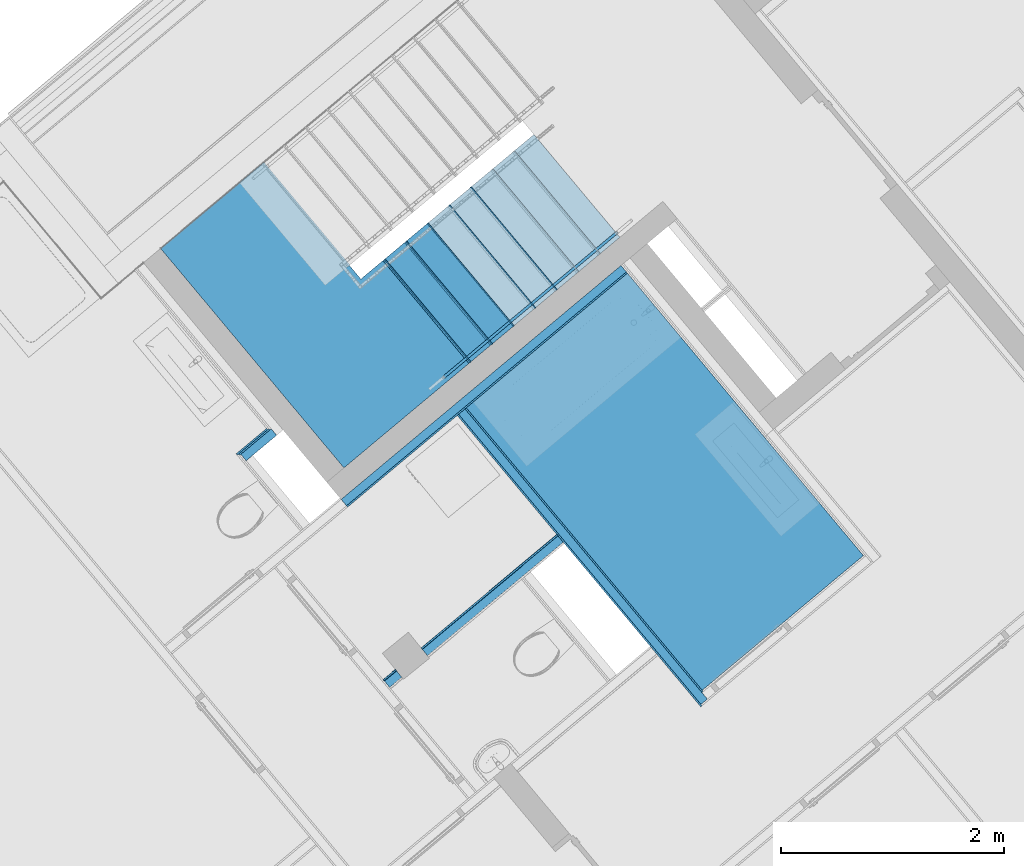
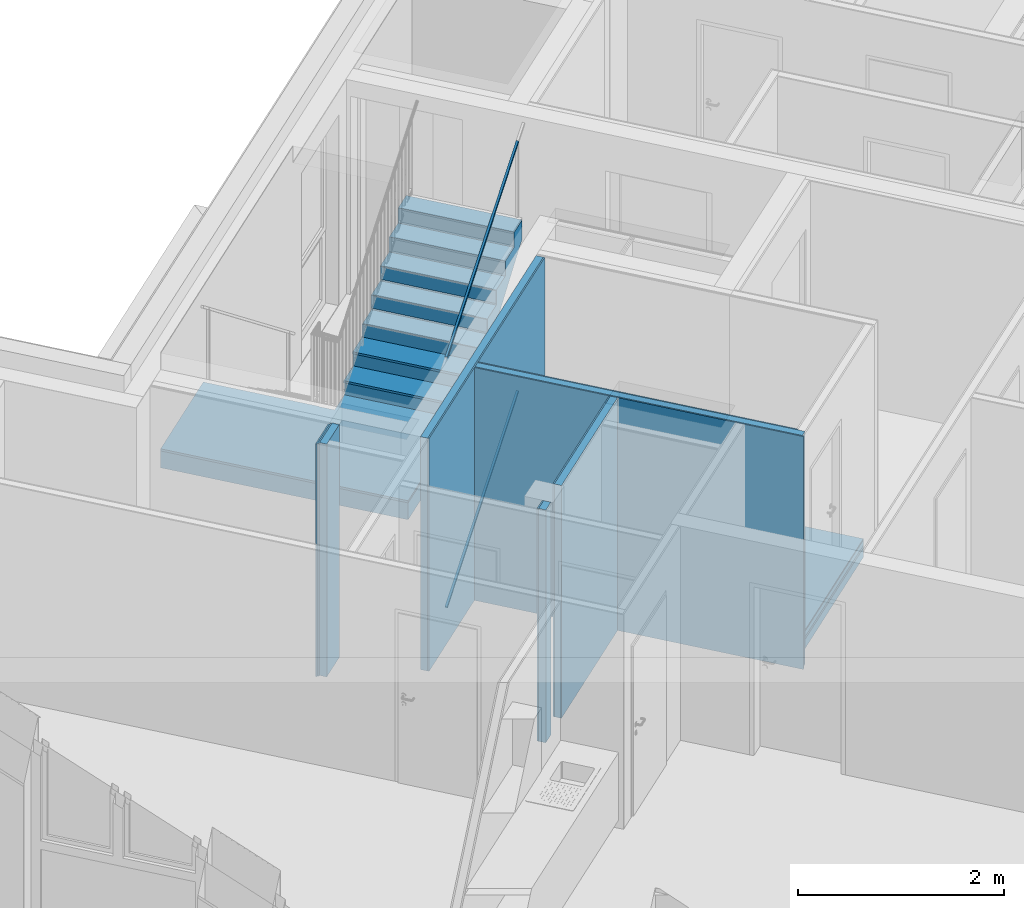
# One storey, part 27 of 53: 26 building element parts, 8 elements without a shape of their own.
"""IFC4 building model written with IfcOpenShell, lengths in metres."""

from ifc_helpers import new_model, entity, si_unit, converted_unit, derived_unit, direction, frame, origin_with_axes, place, context, subcontext, project, spatial, polygons, material, type_object, element, aggregate, save


model = new_model("IFC4")

# Units and contexts
model_context = context("Model", 3, precision=1e-05, world=origin_with_axes(), true_north=direction((0.0, 1.0)))
body_context = subcontext(model_context, "Body", "Model", "MODEL_VIEW")
ifc_project = project(units=[si_unit("LENGTHUNIT", "METRE"), si_unit("AREAUNIT", "SQUARE_METRE"), si_unit("VOLUMEUNIT", "CUBIC_METRE"), converted_unit("PLANEANGLEUNIT", "DEGREE", entity("IfcPlaneAngleMeasure", 0.0174532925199), si_unit("PLANEANGLEUNIT", "RADIAN"), dimensions=[0, 0, 0, 0, 0, 0, 0]), converted_unit("TIMEUNIT", "Year", entity("IfcTimeMeasure", 31556926.0), si_unit("TIMEUNIT", "SECOND"), dimensions=[0, 0, 1, 0, 0, 0, 0]), si_unit("MASSUNIT", "GRAM", prefix="KILO"), si_unit("THERMODYNAMICTEMPERATUREUNIT", "DEGREE_CELSIUS"), si_unit("LUMINOUSINTENSITYUNIT", "LUMEN"), si_unit("ENERGYUNIT", "JOULE", prefix="MEGA"), derived_unit("THERMALCONDUCTANCEUNIT", [(si_unit("POWERUNIT", "WATT"), 1), (si_unit("LENGTHUNIT", "METRE"), -1), (si_unit("THERMODYNAMICTEMPERATUREUNIT", "KELVIN"), -1)]), derived_unit("SPECIFICHEATCAPACITYUNIT", [(si_unit("ENERGYUNIT", "JOULE"), 1), (si_unit("MASSUNIT", "GRAM", prefix="KILO"), -1), (si_unit("THERMODYNAMICTEMPERATUREUNIT", "KELVIN"), -1)]), derived_unit("MASSDENSITYUNIT", [(si_unit("MASSUNIT", "GRAM", prefix="KILO"), 1), (si_unit("VOLUMEUNIT", "CUBIC_METRE"), -1)])], contexts=[model_context])

# Site, building, storey
site_placement = place(None, frame((-0.00153261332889, -0.00661245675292, 0.0), z_axis=(0.0, 0.0, 1.0), x_axis=(1.0, 0.0, 0.0)))
site = spatial("IfcSite", under=ifc_project, at=site_placement, Name="Gelände", CompositionType="ELEMENT")
building_placement = place(site_placement, origin_with_axes())
building = spatial("IfcBuilding", under=site, at=building_placement, Name="Gebäude", CompositionType="ELEMENT")
storey_placement = place(building_placement, frame((0.0, 0.0, 2.74), z_axis=(0.0, 0.0, 1.0), x_axis=(1.0, 0.0, 0.0)))
storey = spatial("IfcBuildingStorey", under=building, at=storey_placement, Name="OG1", CompositionType="ELEMENT", Elevation=2.74)

# Wall, building element parts
wall_type_1 = type_object("IfcWallType", Name="LB 10,5 cm doppelte Vorsatzschale Bad 105", PredefinedType="NOTDEFINED")
wall_1_placement = place(storey_placement, frame((-2.73492476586, 20.9066336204, 0.0), z_axis=(0.0, 0.0, 1.0), x_axis=(-0.767365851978, -0.64120952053, 0.0)))
wall_1 = element("IfcWall", 1, at=wall_1_placement, inside=storey, type_object=wall_type_1, Name="Wand-004", PredefinedType="NOTDEFINED")
ifc_material_1 = material(Name="Mineralwolle weich")
building_element_part_1_placement = place(wall_1_placement, origin_with_axes())
building_element_part_1 = element("IfcBuildingElementPart", 2, at=building_element_part_1_placement, material=ifc_material_1, Name="Mineralwolle weich", PredefinedType="NOTDEFINED", context=body_context, shape_type="Tessellation", body=[
    polygons([(0.430575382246, 0.0, 2.76), (0.075, 0.0, 2.76), (0.0750000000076, -0.075, 2.76), (0.430575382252, -0.075, 2.76), (0.430575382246, 0.0, 0.0), (0.075, 0.0, 0.0), (0.0750000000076, -0.075, 0.0), (0.430575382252, -0.075, 0.0)], [[[1, 2, 3, 4]], [[5, 6, 2, 1]], [[3, 2, 6, 7]], [[4, 3, 7, 8]], [[4, 8, 5, 1]], [[8, 7, 6, 5]]], closed=True),
])
ifc_material_2 = material(Name="Gipskarton")
building_element_part_2_placement = place(wall_1_placement, origin_with_axes())
building_element_part_2 = element("IfcBuildingElementPart", 3, at=building_element_part_2_placement, material=ifc_material_2, Name="Gipskarton", PredefinedType="NOTDEFINED", context=body_context, shape_type="Tessellation", body=[
    polygons([(0.445575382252, -0.075, 2.76), (0.0900000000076, -0.075, 2.76), (0.0900000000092, -0.09, 2.76), (0.445575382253, -0.09, 2.76), (0.445575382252, -0.075, 0.0), (0.0900000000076, -0.075, 0.0), (0.0900000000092, -0.09, 0.0), (0.445575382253, -0.09, 0.0)], [[[1, 2, 3, 4]], [[5, 6, 2, 1]], [[3, 2, 6, 7]], [[4, 3, 7, 8]], [[4, 8, 5, 1]], [[8, 7, 6, 5]]], closed=True),
])
building_element_part_3_placement = place(wall_1_placement, origin_with_axes())
building_element_part_3 = element("IfcBuildingElementPart", 4, at=building_element_part_3_placement, material=ifc_material_2, Name="Gipskarton", PredefinedType="NOTDEFINED", context=body_context, shape_type="Tessellation", body=[
    polygons([(0.460575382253, -0.09, 2.76), (0.105000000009, -0.09, 2.76), (0.105000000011, -0.105, 2.76), (0.460575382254, -0.105, 2.76), (0.460575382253, -0.09, 0.0), (0.105000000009, -0.09, 0.0), (0.105000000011, -0.105, 0.0), (0.460575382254, -0.105, 0.0)], [[[1, 2, 3, 4]], [[5, 6, 2, 1]], [[3, 2, 6, 7]], [[4, 3, 7, 8]], [[4, 8, 5, 1]], [[8, 7, 6, 5]]], closed=True),
])
aggregate(wall_1, [building_element_part_1, building_element_part_2, building_element_part_3])

wall_type_2 = type_object("IfcWallType", Name="IW LB 01 Leichtbautrennwand einfach 10,5 cm 105", PredefinedType="NOTDEFINED")
wall_2_placement = place(storey_placement, frame((-0.283908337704, 19.9697246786, 0.0), z_axis=(0.0, 0.0, 1.0), x_axis=(-0.76736585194, -0.641209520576, 0.0)))
wall_2 = element("IfcWall", 5, at=wall_2_placement, inside=storey, type_object=wall_type_2, Name="Wand-012", PredefinedType="NOTDEFINED")
building_element_part_4_placement = place(wall_2_placement, origin_with_axes())
building_element_part_4 = element("IfcBuildingElementPart", 6, at=building_element_part_4_placement, material=ifc_material_1, Name="Mineralwolle weich", PredefinedType="NOTDEFINED", context=body_context, shape_type="Tessellation", body=[
    polygons([(1.88453826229, 0.09, 0.0), (1.88453826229, 0.09, 2.76), (2.02595275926, 0.09, 2.76), (2.02595275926, 0.09, 0.0), (1.8834173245, 0.015, 2.76), (1.8834173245, 0.015, 0.0), (2.02595275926, 0.015, 2.76), (2.02595275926, 0.015, 0.0)], [[[1, 2, 3, 4]], [[5, 2, 1, 6]], [[2, 5, 7, 3]], [[8, 4, 3, 7]], [[6, 1, 4, 8]], [[5, 6, 8, 7]]], closed=True),
    polygons([(1.58338381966, 0.015, 2.76), (1.58450475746, 0.09, 2.76), (0.0, 0.09, 2.76), (0.0, 0.015, 2.76), (1.58450475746, 0.09, 0.0), (1.58338381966, 0.015, 0.0), (0.0, 0.09, 0.0), (0.0, 0.015, 0.0)], [[[1, 2, 3, 4]], [[5, 2, 1, 6]], [[2, 5, 7, 3]], [[3, 7, 8, 4]], [[6, 1, 4, 8]], [[5, 6, 8, 7]]], closed=True),
])
building_element_part_5_placement = place(wall_2_placement, origin_with_axes())
building_element_part_5 = element("IfcBuildingElementPart", 7, at=building_element_part_5_placement, material=ifc_material_2, Name="Gipskarton", PredefinedType="NOTDEFINED", context=body_context, shape_type="Tessellation", body=[
    polygons([(1.8834173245, 0.015, 0.0), (1.8834173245, 0.015, 2.76), (2.02595275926, 0.015, 2.76), (2.02595275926, 0.015, 0.0), (1.88319313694, 0.0, 2.76), (1.88319313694, 0.0, 0.0), (2.02595275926, 0.0, 2.76), (2.02595275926, 0.0, 0.0)], [[[1, 2, 3, 4]], [[5, 2, 1, 6]], [[2, 5, 7, 3]], [[8, 4, 3, 7]], [[6, 1, 4, 8]], [[5, 6, 8, 7]]], closed=True),
    polygons([(1.58315963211, 0.0, 2.76), (1.58338381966, 0.015, 2.76), (0.0, 0.015, 2.76), (0.0, 0.0, 2.76), (1.58338381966, 0.015, 0.0), (1.58315963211, 0.0, 0.0), (0.0, 0.015, 0.0), (0.0, 0.0, 0.0)], [[[1, 2, 3, 4]], [[5, 2, 1, 6]], [[2, 5, 7, 3]], [[3, 7, 8, 4]], [[6, 1, 4, 8]], [[5, 6, 8, 7]]], closed=True),
])
aggregate(wall_2, [building_element_part_4, building_element_part_5])

wall_type_3 = type_object("IfcWallType", Name="LB 9,0 cm einfache Vorsatzschale  90", PredefinedType="NOTDEFINED")
wall_3_placement = place(storey_placement, frame((0.371124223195, 22.44598682, 0.0), z_axis=(0.0, 0.0, 1.0), x_axis=(-0.767365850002, -0.641209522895, 0.0)))
wall_3 = element("IfcWall", 8, at=wall_3_placement, inside=storey, type_object=wall_type_3, Name="Wand-006", PredefinedType="NOTDEFINED")
building_element_part_6_placement = place(wall_3_placement, origin_with_axes())
building_element_part_6 = element("IfcBuildingElementPart", 9, at=building_element_part_6_placement, material=ifc_material_2, Name="Gipskarton", PredefinedType="NOTDEFINED", context=body_context, shape_type="Tessellation", body=[
    polygons([(0.105000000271, 0.09, 0.0), (0.105000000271, 0.09, 2.76), (3.37051675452, 0.09, 2.76), (3.37051675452, 0.09, 0.0), (0.105000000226, 0.075, 2.76), (0.105000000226, 0.075, 0.0), (3.37051675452, 0.075, 2.76), (3.37051675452, 0.075, 0.0)], [[[1, 2, 3, 4]], [[5, 2, 1, 6]], [[2, 5, 7, 3]], [[7, 8, 4, 3]], [[6, 1, 4, 8]], [[5, 6, 8, 7]]], closed=True),
])
building_element_part_7_placement = place(wall_3_placement, origin_with_axes())
building_element_part_7 = element("IfcBuildingElementPart", 10, at=building_element_part_7_placement, material=ifc_material_1, Name="Mineralwolle weich", PredefinedType="NOTDEFINED", context=body_context, shape_type="Tessellation", body=[
    polygons([(0.105000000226, 0.075, 0.0), (0.105000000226, 0.075, 2.76), (3.37051675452, 0.075, 2.76), (3.37051675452, 0.075, 0.0), (0.105, -2.70841127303e-10, 2.76), (0.105, -2.25703900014e-10, 0.0), (3.37051675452, 0.0, 2.76), (3.37051675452, 0.0, 0.0)], [[[1, 2, 3, 4]], [[5, 2, 1, 6]], [[2, 5, 7, 3]], [[7, 8, 4, 3]], [[6, 1, 4, 8]], [[5, 6, 8, 7]]], closed=True),
])
aggregate(wall_3, [building_element_part_6, building_element_part_7])

wall_4_placement = place(storey_placement, frame((-1.23301762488, 21.1055687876, 0.0), z_axis=(0.0, 0.0, 1.0), x_axis=(0.6412095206, -0.767365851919, 0.0)))
wall_4 = element("IfcWall", 11, at=wall_4_placement, inside=storey, type_object=wall_type_2, Name="Wand-012", PredefinedType="NOTDEFINED")
building_element_part_8_placement = place(wall_4_placement, origin_with_axes())
building_element_part_8 = element("IfcBuildingElementPart", 12, at=building_element_part_8_placement, material=ifc_material_2, Name="Gipskarton", PredefinedType="NOTDEFINED", context=body_context, shape_type="Tessellation", body=[
    polygons([(3.39960026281, 0.09, 0.0), (0.0900000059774, 0.09, 0.0), (0.0900000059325, 0.105, 0.0), (3.39960026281, 0.105, 0.0), (3.39960026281, 0.09, 2.76), (0.0900000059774, 0.09, 2.76), (0.0900000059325, 0.105, 2.76), (3.39960026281, 0.105, 2.76)], [[[1, 2, 3, 4]], [[5, 6, 2, 1]], [[3, 2, 6, 7]], [[4, 3, 7, 8]], [[4, 8, 5, 1]], [[8, 7, 6, 5]]], closed=True),
])
building_element_part_9_placement = place(wall_4_placement, origin_with_axes())
building_element_part_9 = element("IfcBuildingElementPart", 13, at=building_element_part_9_placement, material=ifc_material_1, Name="Mineralwolle weich", PredefinedType="NOTDEFINED", context=body_context, shape_type="Tessellation", body=[
    polygons([(3.47460026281, 0.015, 0.0), (0.0900000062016, 0.015, 0.0), (0.0900000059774, 0.09, 0.0), (3.47460026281, 0.09, 0.0), (3.47460026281, 0.015, 2.76), (0.0900000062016, 0.015, 2.76), (0.0900000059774, 0.09, 2.76), (3.47460026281, 0.09, 2.76)], [[[1, 2, 3, 4]], [[5, 6, 2, 1]], [[3, 2, 6, 7]], [[4, 3, 7, 8]], [[4, 8, 5, 1]], [[8, 7, 6, 5]]], closed=True),
])
building_element_part_10_placement = place(wall_4_placement, origin_with_axes())
building_element_part_10 = element("IfcBuildingElementPart", 14, at=building_element_part_10_placement, material=ifc_material_2, Name="Gipskarton", PredefinedType="NOTDEFINED", context=body_context, shape_type="Tessellation", body=[
    polygons([(3.48960026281, 0.0, 0.0), (0.0900000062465, 0.0, 0.0), (0.0900000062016, 0.015, 0.0), (3.48960026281, 0.015, 0.0), (3.48960026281, 0.0, 2.76), (0.0900000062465, 0.0, 2.76), (0.0900000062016, 0.015, 2.76), (3.48960026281, 0.015, 2.76)], [[[1, 2, 3, 4]], [[5, 6, 2, 1]], [[3, 2, 6, 7]], [[4, 3, 7, 8]], [[4, 8, 5, 1]], [[8, 7, 6, 5]]], closed=True),
])
aggregate(wall_4, [building_element_part_8, building_element_part_9, building_element_part_10])

# Covering, building element parts
covering_type = type_object("IfcCoveringType", Name="DE 01 Decke Wohnung/Wohnung Fließen 220", PredefinedType="NOTDEFINED")
covering_placement = place(storey_placement, frame((2.46070637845, 19.7813643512, 0.22), z_axis=(0.0, 0.0, 1.0), x_axis=(1.0, 0.0, 0.0)))
covering = element("IfcCovering", 15, at=covering_placement, inside=storey, type_object=covering_type, Name="Decke-003", PredefinedType="NOTDEFINED")
ifc_material_3 = material(Name="Fliesen")
building_element_part_11_placement = place(covering_placement, origin_with_axes())
building_element_part_11 = element("IfcBuildingElementPart", 16, at=building_element_part_11_placement, material=ifc_material_3, Name="Fliesen", PredefinedType="NOTDEFINED", context=body_context, shape_type="Tessellation", body=[
    polygons([(-2.11244671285, 2.52823254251, -0.015), (-2.11244671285, 2.52823254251, 0.0), (0.0, 0.0, 0.0), (0.0, 0.0, -0.015), (-3.55544192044, 1.32246835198, -0.015), (-3.55544192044, 1.32246835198, 0.0), (-1.44291267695, -1.20569522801, 0.0), (-1.44291267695, -1.20569522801, -0.015)], [[[1, 2, 3, 4]], [[5, 6, 2, 1]], [[3, 2, 6, 7]], [[4, 3, 7, 8]], [[4, 8, 5, 1]], [[8, 7, 6, 5]]], closed=True),
])
ifc_material_4 = material(Name="Estrich")
building_element_part_12_placement = place(covering_placement, origin_with_axes())
building_element_part_12 = element("IfcBuildingElementPart", 17, at=building_element_part_12_placement, material=ifc_material_4, Name="Estrich", PredefinedType="NOTDEFINED", context=body_context, shape_type="Tessellation", body=[
    polygons([(-2.11244671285, 2.52823254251, -0.08), (-2.11244671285, 2.52823254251, -0.015), (0.0, 0.0, -0.015), (0.0, 0.0, -0.08), (-3.55544192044, 1.32246835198, -0.08), (-3.55544192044, 1.32246835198, -0.015), (-1.44291267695, -1.20569522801, -0.015), (-1.44291267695, -1.20569522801, -0.08)], [[[1, 2, 3, 4]], [[5, 6, 2, 1]], [[3, 2, 6, 7]], [[4, 3, 7, 8]], [[4, 8, 5, 1]], [[8, 7, 6, 5]]], closed=True),
])
ifc_material_5 = material(Name="Trittschalldämmung")
building_element_part_13_placement = place(covering_placement, origin_with_axes())
building_element_part_13 = element("IfcBuildingElementPart", 18, at=building_element_part_13_placement, material=ifc_material_5, Name="Trittschalldämmung", PredefinedType="NOTDEFINED", context=body_context, shape_type="Tessellation", body=[
    polygons([(-2.11244671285, 2.52823254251, -0.11), (-2.11244671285, 2.52823254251, -0.08), (0.0, 0.0, -0.08), (0.0, 0.0, -0.11), (-3.55544192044, 1.32246835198, -0.11), (-3.55544192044, 1.32246835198, -0.08), (-1.44291267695, -1.20569522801, -0.08), (-1.44291267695, -1.20569522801, -0.11)], [[[1, 2, 3, 4]], [[5, 6, 2, 1]], [[3, 2, 6, 7]], [[4, 3, 7, 8]], [[4, 8, 5, 1]], [[8, 7, 6, 5]]], closed=True),
])
ifc_material_6 = material(Name="Schüttung")
building_element_part_14_placement = place(covering_placement, origin_with_axes())
building_element_part_14 = element("IfcBuildingElementPart", 19, at=building_element_part_14_placement, material=ifc_material_6, Name="Schüttung", PredefinedType="NOTDEFINED", context=body_context, shape_type="Tessellation", body=[
    polygons([(0.0, 0.0, -0.22), (-2.11244671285, 2.52823254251, -0.22), (-2.11244671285, 2.52823254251, -0.11), (0.0, 0.0, -0.11), (-1.44291267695, -1.20569522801, -0.22), (-3.55544192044, 1.32246835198, -0.22), (-3.55544192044, 1.32246835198, -0.11), (-1.44291267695, -1.20569522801, -0.11)], [[[1, 2, 3, 4]], [[1, 5, 6, 2]], [[2, 6, 7, 3]], [[4, 3, 7, 8]], [[5, 1, 4, 8]], [[6, 5, 8, 7]]], closed=True),
])
aggregate(covering, [building_element_part_11, building_element_part_12, building_element_part_13, building_element_part_14])

# Space
space_1_placement = place(storey_placement, frame((0.186433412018, 25.8823467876, 0.22), z_axis=(0.0, 0.0, 1.0), x_axis=(-0.767365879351, -0.641209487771, 0.0)))
space_1 = spatial("IfcSpace", under=storey, at=space_1_placement, CompositionType="ELEMENT", PredefinedType="NOTDEFINED")

# Railing, building element part
railing_type = type_object("IfcRailingType", Name="Geländerart", PredefinedType="NOTDEFINED")
railing_1_placement = place(space_1_placement, frame((4.02646190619, 2.55537097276, -1.35941176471), z_axis=(0.0, 0.0, 1.0), x_axis=(-0.767365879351, 0.641209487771, 0.0)))
railing_1 = element("IfcRailing", 20, at=railing_1_placement, inside=space_1, type_object=railing_type, Name="Geländer - 002", PredefinedType="NOTDEFINED")
ifc_material_7 = material(Name="BEKLEIDUNG")
building_element_part_15_placement = place(railing_1_placement, origin_with_axes())
building_element_part_15 = element("IfcBuildingElementPart", 21, at=building_element_part_15_placement, material=ifc_material_7, Name="BEKLEIDUNG", PredefinedType="NOTDEFINED", context=body_context, shape_type="Tessellation", body=[
    polygons([(-0.024045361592, 0.0287762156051, 0.9), (-0.0139891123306, 0.0371791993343, 0.878710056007), (1.53111960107, 1.32826925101, 2.11812182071), (1.52106335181, 1.31986626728, 2.13941176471), (-0.0400755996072, 0.0479603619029, 0.9), (-0.0300193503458, 0.0563633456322, 0.878710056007), (1.51508936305, 1.34745339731, 2.11812182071), (1.50503311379, 1.33905041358, 2.13941176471)], [[[1, 2, 3, 4]], [[1, 5, 6, 2]], [[2, 6, 7, 3]], [[4, 3, 7, 8]], [[5, 1, 4, 8]], [[6, 5, 8, 7]]], closed=True),
])
aggregate(railing_1, [building_element_part_15])

# Space
space_2_placement = place(storey_placement, frame((0.280300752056, 22.6307267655, 0.22), z_axis=(0.0, 0.0, 1.0), x_axis=(-0.641244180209, 0.767336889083, 0.0)))
space_2 = spatial("IfcSpace", under=storey, at=space_2_placement, CompositionType="ELEMENT", PredefinedType="NOTDEFINED")

# Railing, building element part
railing_2_placement = place(space_2_placement, frame((9.09464852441e-05, 2.01352288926, 1.60058823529), z_axis=(0.0, 0.0, 1.0), x_axis=(-0.641244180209, -0.767336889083, 0.0)))
railing_2 = element("IfcRailing", 22, at=railing_2_placement, inside=space_2, type_object=railing_type, Name="Geländer - 002", PredefinedType="NOTDEFINED")
building_element_part_16_placement = place(railing_2_placement, origin_with_axes())
building_element_part_16 = element("IfcBuildingElementPart", 23, at=building_element_part_16_placement, material=ifc_material_7, Name="BEKLEIDUNG", PredefinedType="NOTDEFINED", context=body_context, shape_type="Tessellation", body=[
    polygons([(-0.024045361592, 0.0287762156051, 0.9), (-0.0139891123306, 0.0371791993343, 0.878710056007), (1.53111960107, 1.32826925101, 2.11812182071), (1.52106335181, 1.31986626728, 2.13941176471), (-0.0400755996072, 0.0479603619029, 0.9), (-0.0300193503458, 0.0563633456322, 0.878710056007), (1.51508936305, 1.34745339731, 2.11812182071), (1.50503311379, 1.33905041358, 2.13941176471)], [[[1, 2, 3, 4]], [[1, 5, 6, 2]], [[2, 6, 7, 3]], [[4, 3, 7, 8]], [[5, 1, 4, 8]], [[6, 5, 8, 7]]], closed=True),
])
aggregate(railing_2, [building_element_part_16])

# Stair, building element parts
stair_type = type_object("IfcStairType", Name="Treppentyp", PredefinedType="NOTDEFINED")
stair_placement = place(space_2_placement, frame((2.55980055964, -0.50704333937, -0.17), z_axis=(0.0, 0.0, 1.0), x_axis=(-0.641244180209, -0.767336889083, 0.0)))
stair = element("IfcStair", 24, at=stair_placement, inside=space_2, type_object=stair_type, Name="Treppe - 001", PredefinedType="NOTDEFINED")
ifc_material_8 = material(Name="Stahlbeton Decke")
building_element_part_17_placement = place(stair_placement, origin_with_axes())
building_element_part_17 = element("IfcBuildingElementPart", 25, at=building_element_part_17_placement, material=ifc_material_8, Name="Stahlbeton Decke", PredefinedType="NOTDEFINED", context=body_context, shape_type="Tessellation", body=[
    polygons([(-0.0995859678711, -3.41907180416, 1.54558823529), (-0.0995859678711, -3.41907180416, 1.74558823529), (-1.21798601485, -4.3536048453, 1.74558823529), (-1.21798601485, -4.3536048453, 1.54558823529), (-0.869037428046, -2.49823278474, 1.74558823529), (-0.869037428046, -2.49823278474, 1.54558823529), (-1.06659845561, -2.66331440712, 1.74558823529), (-1.16916165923, -2.5405721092, 1.74558823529), (-1.18404787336, -2.55300972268, 1.74558823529), (-1.95345217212, -1.63213131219, 1.74558823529), (-2.85949147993, -2.38913738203, 1.74558823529), (-2.85949147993, -2.38913738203, 1.54558823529), (-1.93419043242, -1.61603796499, 1.54558823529), (-1.16478618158, -2.53691636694, 1.54558823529), (-1.16916165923, -2.5405721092, 1.54558823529), (-1.06659845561, -2.66331440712, 1.54558823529), (-1.16916165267, -2.54057211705, 1.56852941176), (-1.18404787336, -2.55300972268, 1.56852941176), (-1.95345217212, -1.63213131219, 1.56852941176), (-1.93419043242, -1.61603796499, 1.56852941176), (-1.16478618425, -2.53691636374, 1.56852941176)], [[[1, 2, 3, 4]], [[5, 2, 1, 6]], [[2, 5, 7, 8, 9, 10, 11, 3]], [[3, 11, 12, 4]], [[6, 1, 4, 12, 13, 14, 15, 16]], [[5, 6, 16, 7]], [[8, 7, 16, 15, 17]], [[8, 17, 18, 9]], [[18, 19, 10, 9]], [[13, 12, 11, 10, 19, 20]], [[14, 13, 20, 21]], [[21, 17, 15, 14]], [[20, 19, 18, 17, 21]]], closed=True),
])
building_element_part_18_placement = place(stair_placement, origin_with_axes())
building_element_part_18 = element("IfcBuildingElementPart", 26, at=building_element_part_18_placement, material=ifc_material_8, Name="Stahlbeton Decke", PredefinedType="NOTDEFINED", context=body_context, shape_type="Tessellation", body=[
    polygons([(1.12362509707, -2.39695883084, 2.64145231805), (1.18800462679, -2.34316341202, 2.70047192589), (1.25238415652, -2.2893679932, 2.75949153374), (1.25238415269, -2.28936798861, 2.985), (1.0785064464, -2.4346598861, 2.985), (1.0785064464, -2.4346598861, 2.80794117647), (0.885367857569, -2.59604614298, 2.80794117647), (0.885367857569, -2.59604614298, 2.63088235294), (0.692229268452, -2.75743239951, 2.63088235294), (0.692229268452, -2.75743239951, 2.45382352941), (0.499090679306, -2.918818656, 2.45382352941), (0.499090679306, -2.918818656, 2.27676470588), (0.305952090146, -3.08020491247, 2.27676470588), (0.305952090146, -3.08020491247, 2.09970588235), (0.112813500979, -3.24159116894, 2.09970588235), (0.112813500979, -3.24159116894, 1.92264705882), (-0.0803250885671, -3.40297742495, 1.92264705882), (-0.0803250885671, -3.40297742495, 1.74558823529), (-0.0995859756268, -3.41907178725, 1.74558823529), (-0.0995859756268, -3.41907178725, 1.54558823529), (-0.0717609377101, -3.39582123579, 1.54558823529), (-0.0673962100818, -3.39217407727, 1.54958957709), (-0.0352064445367, -3.36527636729, 1.57909938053), (-0.0030166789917, -3.33837865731, 1.60860918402), (0.0291730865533, -3.31148094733, 1.6381189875), (0.0613628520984, -3.28458323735, 1.66762879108), (0.0935526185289, -3.25768552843, 1.69713859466), (0.125742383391, -3.23078781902, 1.72664839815), (0.157932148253, -3.20389010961, 1.75615820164), (0.190121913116, -3.1769924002, 1.78566800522), (0.222311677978, -3.15009469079, 1.8151778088), (0.25450144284, -3.12319698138, 1.8446876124), (0.286691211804, -3.09629927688, 1.874197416), (0.351070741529, -3.04250385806, 1.93321702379), (0.415450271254, -2.98870843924, 1.99223663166), (0.479829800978, -2.93491302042, 2.05125623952), (0.544209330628, -2.88111760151, 2.11027584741), (0.608588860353, -2.82732218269, 2.16929545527), (0.672968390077, -2.77352676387, 2.22831506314), (0.73734791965, -2.71973134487, 2.28733467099), (0.801727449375, -2.66593592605, 2.34635427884), (0.8661069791, -2.61214050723, 2.40537388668), (0.930486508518, -2.55834508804, 2.46439349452), (0.994866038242, -2.50454966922, 2.52341310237), (1.05924556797, -2.4507542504, 2.58243271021), (0.418553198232, -1.42232438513, 2.70047192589), (0.354173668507, -1.47611980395, 2.64145231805), (0.482932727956, -1.36852896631, 2.75949153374), (0.482932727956, -1.36852896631, 2.985), (0.309055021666, -1.51382086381, 2.985), (0.309055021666, -1.51382086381, 2.80794117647), (0.115916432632, -1.67520712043, 2.80794117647), (0.115916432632, -1.67520712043, 2.63088235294), (-0.0772221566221, -1.8365933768, 2.63088235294), (-0.0772221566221, -1.8365933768, 2.45382352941), (-0.270360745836, -1.99797963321, 2.45382352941), (-0.270360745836, -1.99797963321, 2.27676470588), (-0.463499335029, -2.15936588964, 2.27676470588), (-0.463499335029, -2.15936588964, 2.09970588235), (-0.656637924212, -2.32075214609, 2.09970588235), (-0.656637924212, -2.32075214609, 1.92264705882), (-0.849776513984, -2.48213840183, 1.92264705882), (-0.849776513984, -2.48213840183, 1.74558823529), (-0.86903741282, -2.49823277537, 1.74558823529), (-0.869037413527, -2.49823277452, 1.54558823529), (-0.841212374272, -2.47498222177, 1.54558823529), (-0.815129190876, -2.50619720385, 1.54558823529), (-0.482569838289, -2.90418674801, 1.54558823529), (-0.430403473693, -2.96661670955, 1.54558823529), (-0.0978441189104, -3.36460625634, 1.54558823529), (-0.227569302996, -3.13506661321, 1.57909938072), (-0.163189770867, -3.08127119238, 1.63811898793), (-0.0988102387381, -3.02747577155, 1.69713859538), (-0.0344307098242, -2.97368035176, 1.75615820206), (0.0299488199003, -2.91988493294, 1.81517780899), (0.0943283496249, -2.86608951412, 1.87419741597), (-0.418380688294, -2.12166482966, 1.93321702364), (-0.290397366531, -2.40566999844, 1.8741974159), (-0.482760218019, -2.17546024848, 1.87419741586), (-0.35400115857, -2.06786941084, 1.99223663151), (-0.289621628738, -2.01407399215, 2.0512562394), (-0.225242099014, -1.96027857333, 2.11027584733), (-0.160862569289, -1.90648315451, 2.16929545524), (-0.0964830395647, -1.85268773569, 2.22831506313), (-0.0321035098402, -1.79889231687, 2.28733467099), (0.0322760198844, -1.74509689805, 2.34635427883), (0.0966555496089, -1.69130147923, 2.40537388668), (0.161035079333, -1.63750606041, 2.46439349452), (0.225414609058, -1.58371064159, 2.52341310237), (0.289794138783, -1.52991522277, 2.58243271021), (-0.804657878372, -2.44443735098, 1.57909938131), (-0.836847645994, -2.4713350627, 1.54958957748), (-0.514949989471, -2.20235795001, 1.84468761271), (-0.547139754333, -2.22925565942, 1.81517780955), (-0.579329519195, -2.25615336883, 1.78566800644), (-0.611519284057, -2.28305107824, 1.75615820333), (-0.64370904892, -2.30994878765, 1.72664840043), (-0.675898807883, -2.33684650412, 1.69713859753), (-0.708088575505, -2.36374421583, 1.66762879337), (-0.740278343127, -2.39064192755, 1.6381189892), (-0.77246811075, -2.41753963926, 1.60860918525), (-0.612295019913, -2.67464710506, 1.57909938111), (-0.452121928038, -2.93175456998, 1.54958957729), (-0.387742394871, -2.87795914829, 1.60860918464), (-0.323362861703, -2.82416372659, 1.66762879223), (-0.258983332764, -2.77036830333, 1.72664839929), (-0.19460380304, -2.71657288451, 1.78566800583), (-0.130224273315, -2.66277746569, 1.84468761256), (-0.354776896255, -2.45946541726, 1.81517780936), (-0.41915642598, -2.51326083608, 1.75615820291), (-0.483535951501, -2.56705625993, 1.69713859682), (-0.547915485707, -2.62085168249, 1.63811898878)], [[[1, 2, 3, 4, 5, 6, 7, 8, 9, 10, 11, 12, 13, 14, 15, 16, 17, 18, 19, 20, 21, 22, 23, 24, 25, 26, 27, 28, 29, 30, 31, 32, 33, 34, 35, 36, 37, 38, 39, 40, 41, 42, 43, 44, 45]], [[46, 2, 1, 47]], [[48, 3, 2, 46]], [[4, 3, 48, 49]], [[4, 49, 50, 5]], [[50, 51, 6, 5]], [[52, 7, 6, 51]], [[52, 53, 8, 7]], [[54, 9, 8, 53]], [[54, 55, 10, 9]], [[56, 11, 10, 55]], [[56, 57, 12, 11]], [[58, 13, 12, 57]], [[58, 59, 14, 13]], [[60, 15, 14, 59]], [[60, 61, 16, 15]], [[62, 17, 16, 61]], [[62, 63, 18, 17]], [[63, 64, 19, 18]], [[65, 20, 19, 64]], [[21, 20, 65, 66, 67, 68, 69, 70]], [[70, 22, 21]], [[71, 23, 22]], [[71, 24, 23]], [[72, 25, 24]], [[72, 26, 25]], [[73, 27, 26]], [[73, 28, 27]], [[74, 29, 28]], [[74, 30, 29]], [[75, 31, 30]], [[75, 32, 31]], [[76, 33, 32]], [[77, 34, 33, 76, 78, 79]], [[80, 35, 34, 77]], [[81, 36, 35, 80]], [[82, 37, 36, 81]], [[83, 38, 37, 82]], [[84, 39, 38, 83]], [[85, 40, 39, 84]], [[86, 41, 40, 85]], [[87, 42, 41, 86]], [[88, 43, 42, 87]], [[89, 44, 43, 88]], [[90, 45, 44, 89]], [[47, 1, 45, 90]], [[91, 92, 66, 65, 64, 63, 62, 61, 60, 59, 58, 57, 56, 55, 54, 53, 52, 51, 50, 49, 48, 46, 47, 90, 89, 88, 87, 86, 85, 84, 83, 82, 81, 80, 77, 79, 93, 94, 95, 96, 97, 98, 99, 100, 101]], [[67, 66, 92]], [[67, 92, 102, 103, 68]], [[69, 68, 103]], [[103, 71, 22, 70, 69]], [[104, 72, 24, 71]], [[105, 73, 26, 72]], [[106, 74, 28, 73]], [[74, 107, 75, 30]], [[108, 76, 32, 75]], [[108, 78, 76]], [[78, 93, 79]], [[102, 92, 91]], [[109, 94, 93]], [[109, 95, 94]], [[110, 96, 95]], [[110, 97, 96]], [[111, 98, 97]], [[111, 99, 98]], [[112, 100, 99]], [[112, 101, 100]], [[102, 91, 101]], [[103, 102, 71]], [[72, 104, 112]], [[71, 102, 104]], [[73, 105, 111]], [[112, 105, 72]], [[74, 106, 110]], [[73, 111, 106]], [[74, 110, 107]], [[75, 107, 109]], [[109, 108, 75]], [[109, 93, 78, 108]], [[95, 109, 107, 110]], [[111, 97, 110, 106]], [[99, 111, 105, 112]], [[102, 101, 112, 104]]], closed=True),
])
building_element_part_19_placement = place(stair_placement, origin_with_axes())
building_element_part_19 = element("IfcBuildingElementPart", 27, at=building_element_part_19_placement, material=ifc_material_7, Name="BEKLEIDUNG", PredefinedType="NOTDEFINED", context=body_context, shape_type="Tessellation", body=[
    polygons([(-0.0880754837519, -3.40945364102, 1.92264705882), (-0.0804018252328, -3.40304154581, 1.92264705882), (-0.849853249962, -2.48220252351, 1.92264705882), (-0.857526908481, -2.48861461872, 1.92264705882), (-0.0880754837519, -3.40945364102, 1.77058823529), (-0.0804018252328, -3.40304154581, 1.77058823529), (-0.849853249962, -2.48220252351, 1.77058823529), (-0.857526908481, -2.48861461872, 1.77058823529)], [[[1, 2, 3, 4]], [[1, 5, 6, 2]], [[2, 6, 7, 3]], [[4, 3, 7, 8]], [[5, 1, 4, 8]], [[6, 5, 8, 7]]], closed=True),
])
building_element_part_20_placement = place(stair_placement, origin_with_axes())
building_element_part_20 = element("IfcBuildingElementPart", 28, at=building_element_part_20_placement, material=ifc_material_7, Name="BEKLEIDUNG", PredefinedType="NOTDEFINED", context=body_context, shape_type="Tessellation", body=[
    polygons([(0.105063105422, -3.24806738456, 2.09970588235), (0.112736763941, -3.24165528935, 2.09970588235), (-0.656714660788, -2.32081626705, 2.09970588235), (-0.664388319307, -2.32722836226, 2.09970588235), (0.105063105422, -3.24806738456, 1.94764705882), (0.112736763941, -3.24165528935, 1.94764705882), (-0.656714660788, -2.32081626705, 1.94764705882), (-0.664388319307, -2.32722836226, 1.94764705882)], [[[1, 2, 3, 4]], [[1, 5, 6, 2]], [[2, 6, 7, 3]], [[4, 3, 7, 8]], [[5, 1, 4, 8]], [[6, 5, 8, 7]]], closed=True),
])
building_element_part_21_placement = place(stair_placement, origin_with_axes())
building_element_part_21 = element("IfcBuildingElementPart", 29, at=building_element_part_21_placement, material=ifc_material_7, Name="BEKLEIDUNG", PredefinedType="NOTDEFINED", context=body_context, shape_type="Tessellation", body=[
    polygons([(0.298201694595, -3.0866811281, 2.27676470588), (0.305875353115, -3.08026903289, 2.27676470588), (-0.463576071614, -2.1594300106, 2.27676470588), (-0.471249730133, -2.1658421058, 2.27676470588), (0.298201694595, -3.0866811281, 2.12470588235), (0.305875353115, -3.08026903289, 2.12470588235), (-0.463576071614, -2.1594300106, 2.12470588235), (-0.471249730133, -2.1658421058, 2.12470588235)], [[[1, 2, 3, 4]], [[1, 5, 6, 2]], [[2, 6, 7, 3]], [[4, 3, 7, 8]], [[5, 1, 4, 8]], [[6, 5, 8, 7]]], closed=True),
])
building_element_part_22_placement = place(stair_placement, origin_with_axes())
building_element_part_22 = element("IfcBuildingElementPart", 30, at=building_element_part_22_placement, material=ifc_material_7, Name="BEKLEIDUNG", PredefinedType="NOTDEFINED", context=body_context, shape_type="Tessellation", body=[
    polygons([(0.491340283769, -2.92529487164, 2.45382352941), (0.499013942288, -2.91888277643, 2.45382352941), (-0.270437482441, -1.99804375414, 2.45382352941), (-0.27811114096, -2.00445584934, 2.45382352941), (0.491340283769, -2.92529487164, 2.30176470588), (0.499013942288, -2.91888277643, 2.30176470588), (-0.270437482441, -1.99804375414, 2.30176470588), (-0.27811114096, -2.00445584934, 2.30176470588)], [[[1, 2, 3, 4]], [[1, 5, 6, 2]], [[2, 6, 7, 3]], [[4, 3, 7, 8]], [[5, 1, 4, 8]], [[6, 5, 8, 7]]], closed=True),
])
building_element_part_23_placement = place(stair_placement, origin_with_axes())
building_element_part_23 = element("IfcBuildingElementPart", 31, at=building_element_part_23_placement, material=ifc_material_7, Name="BEKLEIDUNG", PredefinedType="NOTDEFINED", context=body_context, shape_type="Tessellation", body=[
    polygons([(0.684478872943, -2.76390861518, 2.63088235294), (0.692152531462, -2.75749651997, 2.63088235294), (-0.0772988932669, -1.83665749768, 2.63088235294), (-0.084972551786, -1.84306959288, 2.63088235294), (0.684478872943, -2.76390861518, 2.47882352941), (0.692152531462, -2.75749651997, 2.47882352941), (-0.0772988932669, -1.83665749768, 2.47882352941), (-0.084972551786, -1.84306959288, 2.47882352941)], [[[1, 2, 3, 4]], [[1, 5, 6, 2]], [[2, 6, 7, 3]], [[4, 3, 7, 8]], [[5, 1, 4, 8]], [[6, 5, 8, 7]]], closed=True),
])
building_element_part_24_placement = place(stair_placement, origin_with_axes())
building_element_part_24 = element("IfcBuildingElementPart", 32, at=building_element_part_24_placement, material=ifc_material_7, Name="BEKLEIDUNG", PredefinedType="NOTDEFINED", context=body_context, shape_type="Tessellation", body=[
    polygons([(-2.85949147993, -2.38913737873, 1.74558823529), (-1.2179860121, -4.3536048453, 1.74558823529), (-1.2179860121, -4.3536048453, 1.77058823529), (-2.85949147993, -2.38913737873, 1.77058823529), (-1.93419043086, -1.6160379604, 1.74558823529), (-1.16478613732, -2.53691636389, 1.74558823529), (-1.16916165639, -2.54057210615, 1.74558823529), (-1.06659841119, -2.66331440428, 1.74558823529), (-1.06217597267, -2.65961903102, 1.74558823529), (-0.849853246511, -2.48220251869, 1.74558823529), (-0.080401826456, -3.40304153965, 1.74558823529), (-0.292724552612, -3.58045805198, 1.74558823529), (-0.292724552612, -3.58045805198, 1.77058823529), (-0.080401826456, -3.40304153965, 1.77058823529), (-0.849853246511, -2.48220251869, 1.77058823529), (-1.06217597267, -2.65961903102, 1.77058823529), (-1.06659841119, -2.66331440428, 1.77058823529), (-1.16916165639, -2.54057210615, 1.77058823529), (-1.16478613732, -2.53691636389, 1.77058823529), (-1.93419043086, -1.6160379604, 1.77058823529)], [[[1, 2, 3, 4]], [[1, 5, 6, 7, 8, 9, 10, 11, 12, 2]], [[2, 12, 13, 3]], [[4, 3, 13, 14, 15, 16, 17, 18, 19, 20]], [[5, 1, 4, 20]], [[6, 5, 20, 19]], [[7, 6, 19, 18]], [[8, 7, 18, 17]], [[9, 8, 17, 16]], [[10, 9, 16, 15]], [[11, 10, 15, 14]], [[12, 11, 14, 13]]], closed=True),
])
building_element_part_25_placement = place(stair_placement, origin_with_axes())
building_element_part_25 = element("IfcBuildingElementPart", 33, at=building_element_part_25_placement, material=ifc_material_7, Name="BEKLEIDUNG", PredefinedType="NOTDEFINED", context=body_context, shape_type="Tessellation", body=[
    polygons([(-0.869037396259, -2.49823276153, 1.92264705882), (-0.0995859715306, -3.41907178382, 1.92264705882), (-0.0995859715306, -3.41907178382, 1.94764705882), (-0.869037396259, -2.49823276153, 1.94764705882), (-0.656714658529, -2.32081626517, 1.92264705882), (0.112736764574, -3.24165528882, 1.92264705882), (0.112736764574, -3.24165528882, 1.94764705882), (-0.656714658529, -2.32081626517, 1.94764705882)], [[[1, 2, 3, 4]], [[1, 5, 6, 2]], [[2, 6, 7, 3]], [[4, 3, 7, 8]], [[5, 1, 4, 8]], [[6, 5, 8, 7]]], closed=True),
])
building_element_part_26_placement = place(stair_placement, origin_with_axes())
building_element_part_26 = element("IfcBuildingElementPart", 34, at=building_element_part_26_placement, material=ifc_material_7, Name="BEKLEIDUNG", PredefinedType="NOTDEFINED", context=body_context, shape_type="Tessellation", body=[
    polygons([(-0.675898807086, -2.33684650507, 2.09970588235), (0.093552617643, -3.25768552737, 2.09970588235), (0.093552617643, -3.25768552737, 2.12470588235), (-0.675898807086, -2.33684650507, 2.12470588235), (-0.463576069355, -2.15943000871, 2.09970588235), (0.305875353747, -3.08026903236, 2.09970588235), (0.305875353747, -3.08026903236, 2.12470588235), (-0.463576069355, -2.15943000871, 2.12470588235)], [[[1, 2, 3, 4]], [[1, 5, 6, 2]], [[2, 6, 7, 3]], [[4, 3, 7, 8]], [[5, 1, 4, 8]], [[6, 5, 8, 7]]], closed=True),
])
aggregate(stair, [building_element_part_17, building_element_part_18, building_element_part_19, building_element_part_20, building_element_part_21, building_element_part_22, building_element_part_23, building_element_part_24, building_element_part_25, building_element_part_26])

save(model, "model.ifc")
